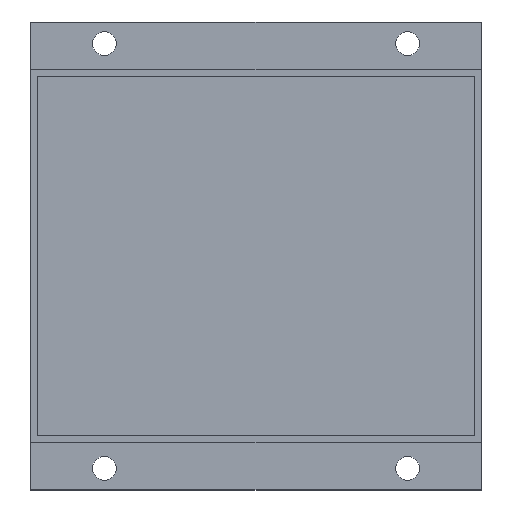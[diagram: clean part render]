
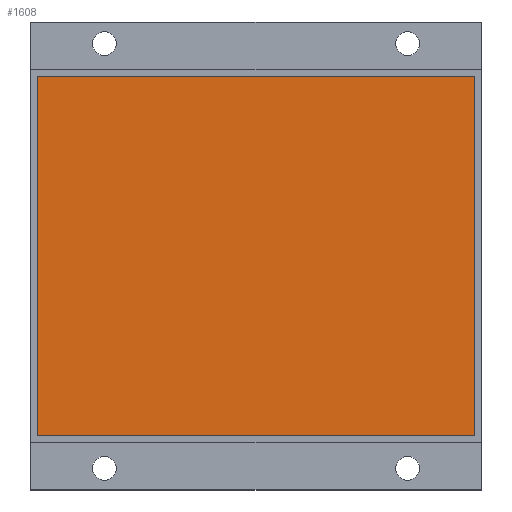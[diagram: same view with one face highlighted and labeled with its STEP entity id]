
A CAD part, top view. The second image highlights one B-rep face of the part: STEP entity #1608.
In plain terms, the highlighted planar face has unit normal (0, 0, 1).
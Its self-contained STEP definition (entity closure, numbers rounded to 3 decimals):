
#451 = PLANE('',#452);
#452 = AXIS2_PLACEMENT_3D('',#453,#454,#455);
#453 = CARTESIAN_POINT('',(-50.5,180.5,-71.5));
#454 = DIRECTION('',(-0.,1.,0.));
#455 = DIRECTION('',(0.,0.,1.));
#477 = PLANE('',#478);
#478 = AXIS2_PLACEMENT_3D('',#479,#480,#481);
#479 = CARTESIAN_POINT('',(-50.5,180.5,-71.5));
#480 = DIRECTION('',(1.,0.,-0.));
#481 = DIRECTION('',(0.,0.,1.));
#503 = PLANE('',#504);
#504 = AXIS2_PLACEMENT_3D('',#505,#506,#507);
#505 = CARTESIAN_POINT('',(-50.5,263.5,-71.5));
#506 = DIRECTION('',(-0.,1.,0.));
#507 = DIRECTION('',(0.,0.,1.));
#527 = PLANE('',#528);
#528 = AXIS2_PLACEMENT_3D('',#529,#530,#531);
#529 = CARTESIAN_POINT('',(50.5,180.5,-71.5));
#530 = DIRECTION('',(1.,0.,-0.));
#531 = DIRECTION('',(0.,0.,1.));
#1154 = VERTEX_POINT('',#1155);
#1155 = CARTESIAN_POINT('',(50.5,180.5,-71.5));
#1176 = EDGE_CURVE('',#1177,#1154,#1179,.T.);
#1177 = VERTEX_POINT('',#1178);
#1178 = CARTESIAN_POINT('',(-50.5,180.5,-71.5));
#1179 = SURFACE_CURVE('',#1180,(#1184,#1191),.PCURVE_S1.);
#1180 = LINE('',#1181,#1182);
#1181 = CARTESIAN_POINT('',(-50.5,180.5,-71.5));
#1182 = VECTOR('',#1183,1.);
#1183 = DIRECTION('',(1.,0.,-0.));
#1184 = PCURVE('',#451,#1185);
#1185 = DEFINITIONAL_REPRESENTATION('',(#1186),#1190);
#1186 = LINE('',#1187,#1188);
#1187 = CARTESIAN_POINT('',(0.,0.));
#1188 = VECTOR('',#1189,1.);
#1189 = DIRECTION('',(0.,1.));
#1190 = ( GEOMETRIC_REPRESENTATION_CONTEXT(2) 
PARAMETRIC_REPRESENTATION_CONTEXT() REPRESENTATION_CONTEXT('2D SPACE',''
  ) );
#1191 = PCURVE('',#1192,#1197);
#1192 = PLANE('',#1193);
#1193 = AXIS2_PLACEMENT_3D('',#1194,#1195,#1196);
#1194 = CARTESIAN_POINT('',(-50.5,180.5,-71.5));
#1195 = DIRECTION('',(0.,0.,1.));
#1196 = DIRECTION('',(1.,0.,-0.));
#1197 = DEFINITIONAL_REPRESENTATION('',(#1198),#1202);
#1198 = LINE('',#1199,#1200);
#1199 = CARTESIAN_POINT('',(0.,0.));
#1200 = VECTOR('',#1201,1.);
#1201 = DIRECTION('',(1.,0.));
#1202 = ( GEOMETRIC_REPRESENTATION_CONTEXT(2) 
PARAMETRIC_REPRESENTATION_CONTEXT() REPRESENTATION_CONTEXT('2D SPACE',''
  ) );
#1230 = EDGE_CURVE('',#1154,#1231,#1233,.T.);
#1231 = VERTEX_POINT('',#1232);
#1232 = CARTESIAN_POINT('',(50.5,263.5,-71.5));
#1233 = SURFACE_CURVE('',#1234,(#1238,#1245),.PCURVE_S1.);
#1234 = LINE('',#1235,#1236);
#1235 = CARTESIAN_POINT('',(50.5,180.5,-71.5));
#1236 = VECTOR('',#1237,1.);
#1237 = DIRECTION('',(-0.,1.,0.));
#1238 = PCURVE('',#527,#1239);
#1239 = DEFINITIONAL_REPRESENTATION('',(#1240),#1244);
#1240 = LINE('',#1241,#1242);
#1241 = CARTESIAN_POINT('',(0.,0.));
#1242 = VECTOR('',#1243,1.);
#1243 = DIRECTION('',(0.,-1.));
#1244 = ( GEOMETRIC_REPRESENTATION_CONTEXT(2) 
PARAMETRIC_REPRESENTATION_CONTEXT() REPRESENTATION_CONTEXT('2D SPACE',''
  ) );
#1245 = PCURVE('',#1192,#1246);
#1246 = DEFINITIONAL_REPRESENTATION('',(#1247),#1251);
#1247 = LINE('',#1248,#1249);
#1248 = CARTESIAN_POINT('',(101.,0.));
#1249 = VECTOR('',#1250,1.);
#1250 = DIRECTION('',(0.,1.));
#1251 = ( GEOMETRIC_REPRESENTATION_CONTEXT(2) 
PARAMETRIC_REPRESENTATION_CONTEXT() REPRESENTATION_CONTEXT('2D SPACE',''
  ) );
#1279 = EDGE_CURVE('',#1280,#1231,#1282,.T.);
#1280 = VERTEX_POINT('',#1281);
#1281 = CARTESIAN_POINT('',(-50.5,263.5,-71.5));
#1282 = SURFACE_CURVE('',#1283,(#1287,#1294),.PCURVE_S1.);
#1283 = LINE('',#1284,#1285);
#1284 = CARTESIAN_POINT('',(-50.5,263.5,-71.5));
#1285 = VECTOR('',#1286,1.);
#1286 = DIRECTION('',(1.,0.,-0.));
#1287 = PCURVE('',#503,#1288);
#1288 = DEFINITIONAL_REPRESENTATION('',(#1289),#1293);
#1289 = LINE('',#1290,#1291);
#1290 = CARTESIAN_POINT('',(0.,0.));
#1291 = VECTOR('',#1292,1.);
#1292 = DIRECTION('',(0.,1.));
#1293 = ( GEOMETRIC_REPRESENTATION_CONTEXT(2) 
PARAMETRIC_REPRESENTATION_CONTEXT() REPRESENTATION_CONTEXT('2D SPACE',''
  ) );
#1294 = PCURVE('',#1192,#1295);
#1295 = DEFINITIONAL_REPRESENTATION('',(#1296),#1300);
#1296 = LINE('',#1297,#1298);
#1297 = CARTESIAN_POINT('',(0.,83.));
#1298 = VECTOR('',#1299,1.);
#1299 = DIRECTION('',(1.,0.));
#1300 = ( GEOMETRIC_REPRESENTATION_CONTEXT(2) 
PARAMETRIC_REPRESENTATION_CONTEXT() REPRESENTATION_CONTEXT('2D SPACE',''
  ) );
#1328 = EDGE_CURVE('',#1177,#1280,#1329,.T.);
#1329 = SURFACE_CURVE('',#1330,(#1334,#1341),.PCURVE_S1.);
#1330 = LINE('',#1331,#1332);
#1331 = CARTESIAN_POINT('',(-50.5,180.5,-71.5));
#1332 = VECTOR('',#1333,1.);
#1333 = DIRECTION('',(-0.,1.,0.));
#1334 = PCURVE('',#477,#1335);
#1335 = DEFINITIONAL_REPRESENTATION('',(#1336),#1340);
#1336 = LINE('',#1337,#1338);
#1337 = CARTESIAN_POINT('',(0.,0.));
#1338 = VECTOR('',#1339,1.);
#1339 = DIRECTION('',(0.,-1.));
#1340 = ( GEOMETRIC_REPRESENTATION_CONTEXT(2) 
PARAMETRIC_REPRESENTATION_CONTEXT() REPRESENTATION_CONTEXT('2D SPACE',''
  ) );
#1341 = PCURVE('',#1192,#1342);
#1342 = DEFINITIONAL_REPRESENTATION('',(#1343),#1347);
#1343 = LINE('',#1344,#1345);
#1344 = CARTESIAN_POINT('',(0.,0.));
#1345 = VECTOR('',#1346,1.);
#1346 = DIRECTION('',(0.,1.));
#1347 = ( GEOMETRIC_REPRESENTATION_CONTEXT(2) 
PARAMETRIC_REPRESENTATION_CONTEXT() REPRESENTATION_CONTEXT('2D SPACE',''
  ) );
#1608 = ADVANCED_FACE('',(#1609),#1192,.T.);
#1609 = FACE_BOUND('',#1610,.T.);
#1610 = EDGE_LOOP('',(#1611,#1612,#1613,#1614));
#1611 = ORIENTED_EDGE('',*,*,#1328,.F.);
#1612 = ORIENTED_EDGE('',*,*,#1176,.T.);
#1613 = ORIENTED_EDGE('',*,*,#1230,.T.);
#1614 = ORIENTED_EDGE('',*,*,#1279,.F.);
